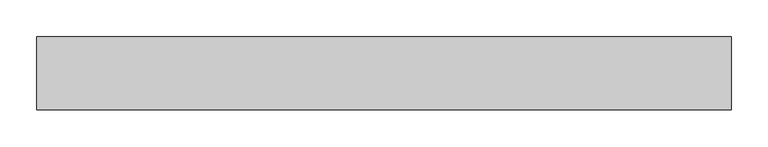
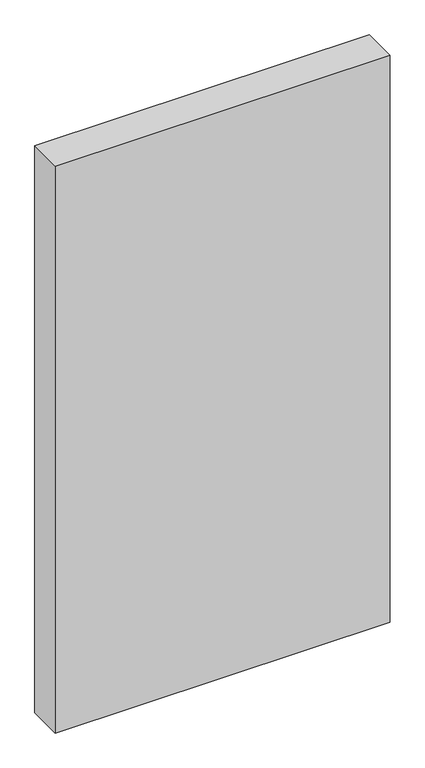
"""IFC4 building model written with IfcOpenShell, lengths in millimetres: proxy geometry."""

from ifc_helpers import new_model, si_unit, origin, origin_with_axes, place, context, project, spatial, polyline, outline, extrude, source, transform, mapped, element, save


def generic_models_efb5f3d0(model_context):
    return source(origin(), model_context, "Body", "SweptSolid", [
        extrude(outline(polyline([(-950.0, 0.0), (0.0, 0.0), (0.0, -100.0), (-950.0, -100.0), (-950.0, 0.0)])), origin_with_axes(), (0.0, 0.0, 1.0), 1700.0),
    ])


if __name__ == "__main__":
    model = new_model("IFC4")
    model_context = context("Model", 3, world=origin())
    ifc_project = project(units=[si_unit("LENGTHUNIT", "METRE", prefix="MILLI")], contexts=[model_context])
    site = spatial("IfcSite", under=ifc_project)
    building = spatial("IfcBuilding", under=site)
    placement = place(None, origin())
    generic_models_shape = generic_models_efb5f3d0(model_context)
    element("IfcBuildingElementProxy", 1, Name="Generic Models", at=placement, inside=building, context=model_context, shape_type="MappedRepresentation", body=[
        mapped(generic_models_shape, transform((0.0, 0.0, 0.0), x_axis=(1.0, 0.0, 0.0), y_axis=(0.0, 1.0, 0.0), z_axis=(0.0, 0.0, 1.0))),
    ])
    save(model, "model.ifc")
